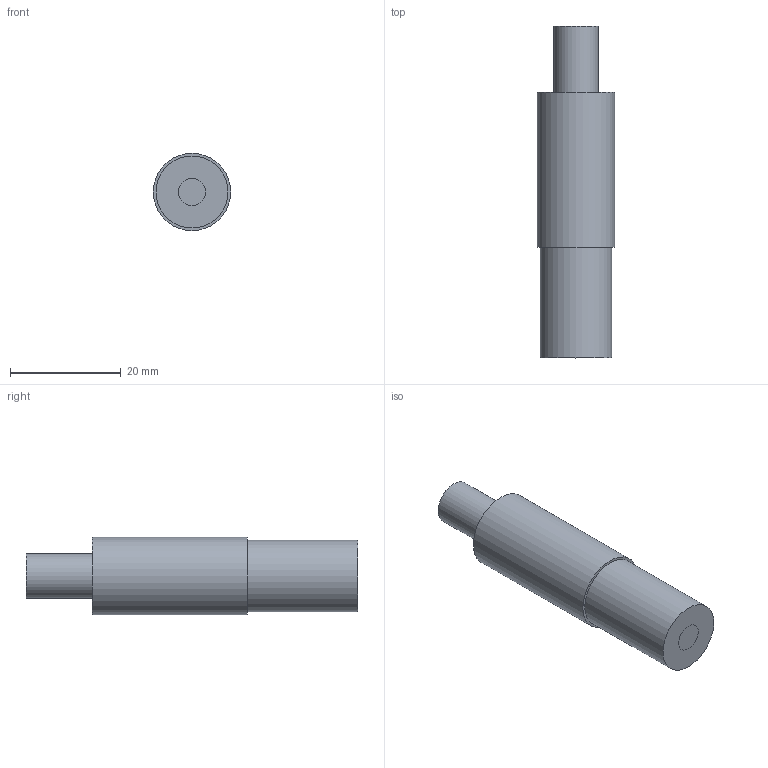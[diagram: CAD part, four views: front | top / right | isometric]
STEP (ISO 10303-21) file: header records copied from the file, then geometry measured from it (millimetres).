
FILE_DESCRIPTION(/* description */ (''),/* implementation_level */ '2;1');
FILE_NAME(/* name */ '//sv004/特品事業部/特品共通フォルダ/☆社外用データテスト/01_製品関連/0121_ライトガイド関連/3D図面/QLGC1-5L スポット型共通照射部.step',/* time_stamp */ '2022-09-27T13:52:21+09:00',/* author */ (''),/* organization */ (''),/* preprocessor_version */ 'ST-DEVELOPER v19',/* originating_system */ 'Autodesk Translation Framework v11.7.0.108',/* authorisation */ '');
FILE_SCHEMA (('AUTOMOTIVE_DESIGN { 1 0 10303 214 3 1 1 }'));
Length unit declared in the file: millimetre
Products named in the file (1): QLGC1-5L スポット型共通照射部
Bounding box: 14 x 60 x 14 mm (x, y, z)
Volume: 7568.1 mm3; surface area: 4768.9 mm2
Topology: 3 solids, 3 shells, 13 faces, 18 edges, 12 vertices
Faces by surface type: plane 7, cylinder 6
Full cylindrical faces by diameter (mm): 5 x3, 8 x1, 13 x1, 14 x1
Entity records: 323 total; most frequent: DIRECTION 58, CARTESIAN_POINT 44, ORIENTED_EDGE 36, AXIS2_PLACEMENT_3D 26, EDGE_LOOP 18, EDGE_CURVE 18, FACE_OUTER_BOUND 13, ADVANCED_FACE 13
